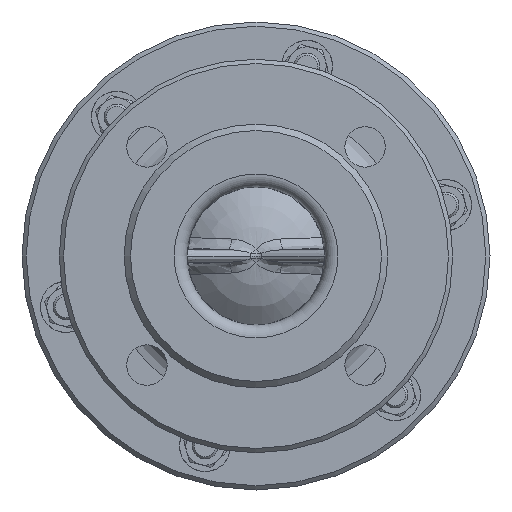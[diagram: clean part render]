
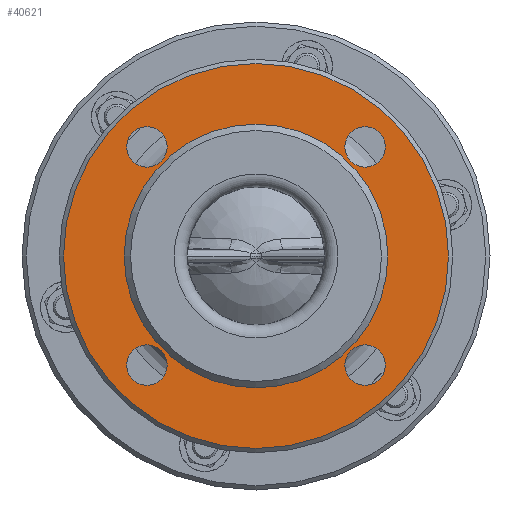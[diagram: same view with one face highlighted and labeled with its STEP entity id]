
A CAD part, front view. The second image highlights one B-rep face of the part: STEP entity #40621.
In plain terms, the highlighted planar face has unit normal (0, -1, 0).
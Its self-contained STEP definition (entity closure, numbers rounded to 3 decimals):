
#5428=PLANE('',#42821);
#9813=ORIENTED_EDGE('',*,*,#15946,.F.);
#9814=ORIENTED_EDGE('',*,*,#15945,.F.);
#9815=ORIENTED_EDGE('',*,*,#15944,.F.);
#9816=ORIENTED_EDGE('',*,*,#15943,.F.);
#9817=ORIENTED_EDGE('',*,*,#15947,.T.);
#9818=ORIENTED_EDGE('',*,*,#15942,.F.);
#15942=EDGE_CURVE('',#19288,#19288,#21122,.T.);
#15943=EDGE_CURVE('',#19289,#19289,#21123,.T.);
#15944=EDGE_CURVE('',#19290,#19290,#21124,.T.);
#15945=EDGE_CURVE('',#19291,#19291,#21125,.T.);
#15946=EDGE_CURVE('',#19292,#19292,#21126,.T.);
#15947=EDGE_CURVE('',#19293,#19293,#21127,.T.);
#19288=VERTEX_POINT('',#65016);
#19289=VERTEX_POINT('',#65019);
#19290=VERTEX_POINT('',#65022);
#19291=VERTEX_POINT('',#65025);
#19292=VERTEX_POINT('',#65028);
#19293=VERTEX_POINT('',#65031);
#21122=CIRCLE('',#42812,90.5);
#21123=CIRCLE('',#42814,9.5);
#21124=CIRCLE('',#42816,9.5);
#21125=CIRCLE('',#42818,9.5);
#21126=CIRCLE('',#42820,9.5);
#21127=CIRCLE('',#42822,62.);
#22767=EDGE_LOOP('',(#9813));
#22768=EDGE_LOOP('',(#9814));
#22769=EDGE_LOOP('',(#9815));
#22770=EDGE_LOOP('',(#9816));
#22771=EDGE_LOOP('',(#9817));
#22772=EDGE_LOOP('',(#9818));
#25260=FACE_BOUND('',#22767,.T.);
#25261=FACE_BOUND('',#22768,.T.);
#25262=FACE_BOUND('',#22769,.T.);
#25263=FACE_BOUND('',#22770,.T.);
#25264=FACE_BOUND('',#22771,.T.);
#25265=FACE_BOUND('',#22772,.T.);
#40621=ADVANCED_FACE('',(#25260,#25261,#25262,#25263,#25264,#25265),#5428,
 .T.);
#42812=AXIS2_PLACEMENT_3D('',#65015,#47159,#47160);
#42814=AXIS2_PLACEMENT_3D('',#65018,#47163,#47164);
#42816=AXIS2_PLACEMENT_3D('',#65021,#47167,#47168);
#42818=AXIS2_PLACEMENT_3D('',#65024,#47171,#47172);
#42820=AXIS2_PLACEMENT_3D('',#65027,#47175,#47176);
#42821=AXIS2_PLACEMENT_3D('',#65029,#47177,#47178);
#42822=AXIS2_PLACEMENT_3D('',#65030,#47179,#47180);
#47159=DIRECTION('',(0.,1.,0.));
#47160=DIRECTION('',(-1.,0.,0.));
#47163=DIRECTION('',(0.,-1.,0.));
#47164=DIRECTION('',(1.,0.,0.));
#47167=DIRECTION('',(0.,-1.,0.));
#47168=DIRECTION('',(1.,0.,0.));
#47171=DIRECTION('',(0.,-1.,0.));
#47172=DIRECTION('',(1.,0.,0.));
#47175=DIRECTION('',(0.,-1.,0.));
#47176=DIRECTION('',(1.,0.,0.));
#47177=DIRECTION('',(0.,-1.,0.));
#47178=DIRECTION('',(1.,0.,0.));
#47179=DIRECTION('',(0.,1.,0.));
#47180=DIRECTION('',(-1.,0.,0.));
#65015=CARTESIAN_POINT('',(0.,-53.,0.));
#65016=CARTESIAN_POINT('',(-90.5,-53.,0.));
#65018=CARTESIAN_POINT('',(-51.265,-53.,51.265));
#65019=CARTESIAN_POINT('',(-41.765,-53.,51.265));
#65021=CARTESIAN_POINT('',(51.265,-53.,51.265));
#65022=CARTESIAN_POINT('',(60.765,-53.,51.265));
#65024=CARTESIAN_POINT('',(51.265,-53.,-51.265));
#65025=CARTESIAN_POINT('',(60.765,-53.,-51.265));
#65027=CARTESIAN_POINT('',(-51.265,-53.,-51.265));
#65028=CARTESIAN_POINT('',(-41.765,-53.,-51.265));
#65029=CARTESIAN_POINT('',(90.5,-53.,0.));
#65030=CARTESIAN_POINT('',(0.,-53.,0.));
#65031=CARTESIAN_POINT('',(-62.,-53.,0.));
